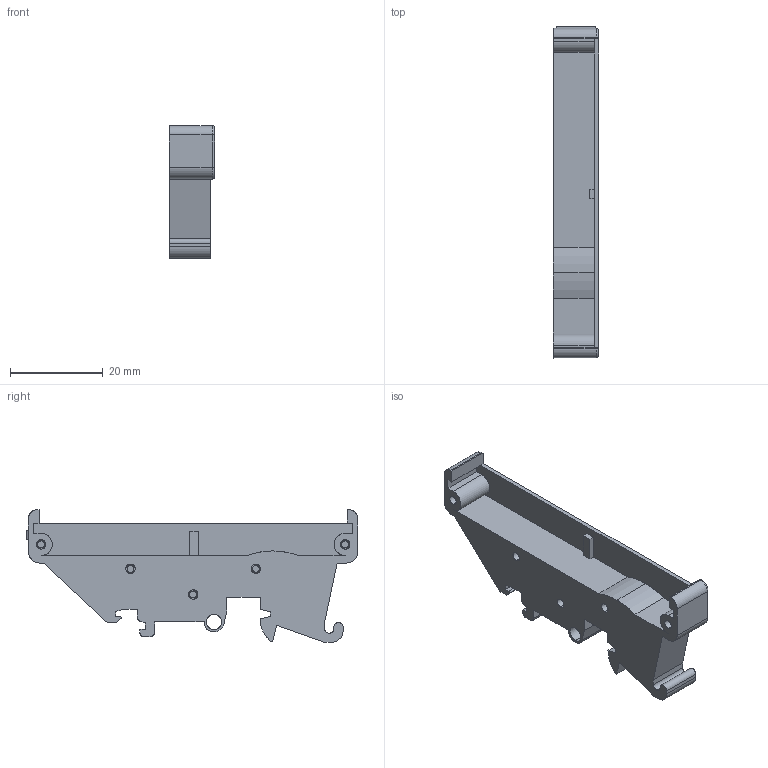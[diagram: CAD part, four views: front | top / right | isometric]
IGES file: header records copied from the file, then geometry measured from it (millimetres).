
Start section: SolidWorks IGES file using analytic representation for surfaces
Global section: file name: D:\X - Arquivos\PROEX\Empresas\P11 - METALTEX\01 - Produtos\IGES\7ª remessa\2ª etapa\SP7-M.IGS; native system: SolidWorks 2012; preprocessor: SolidWorks 2012; author: Usuario; date: 190912.135551; units: millimetre
Bounding box: 9.7 x 71.5 x 28.6 mm (x, y, z)
Surface area: 5439.1 mm2 (no closed solid volume)
Topology: 0 solids, 0 shells, 227 faces, 2248 edges, 2248 vertices
Faces by surface type: bspline 171, revolution 56
